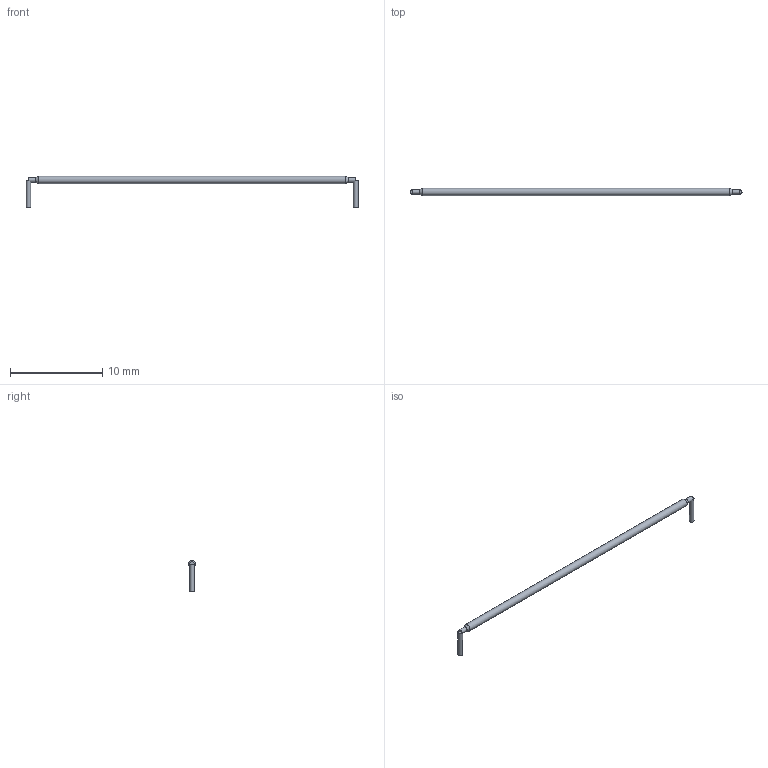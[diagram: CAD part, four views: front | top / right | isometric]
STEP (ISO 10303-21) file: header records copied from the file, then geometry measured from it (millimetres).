
FILE_DESCRIPTION(('FreeCAD Model'),'2;1');
FILE_NAME('Open CASCADE Shape Model','2026-04-07T19:07:43',('FreeCAD'),( 'FreeCAD'),'Open CASCADE STEP processor 7.8','FreeCAD','Unknown');
FILE_SCHEMA(('AUTOMOTIVE_DESIGN { 1 0 10303 214 1 1 1 1 }'));
Length unit declared in the file: millimetre
Products named in the file (1): Open CASCADE STEP translator 7.8 14
Bounding box: 36.06 x 0.8 x 3.4 mm (x, y, z)
Volume: 25.1 mm3; surface area: 152.1 mm2
Topology: 4 solids, 4 shells, 14 faces, 16 edges, 10 vertices
Faces by surface type: plane 8, cylinder 4, cone 2
Full cylindrical faces by diameter (mm): 0.5 x3, 0.8 x1
Entity records: 287 total; most frequent: DIRECTION 56, CARTESIAN_POINT 41, ORIENTED_EDGE 32, AXIS2_PLACEMENT_3D 25, EDGE_CURVE 16, ADVANCED_FACE 14, FACE_BOUND 14, EDGE_LOOP 14
